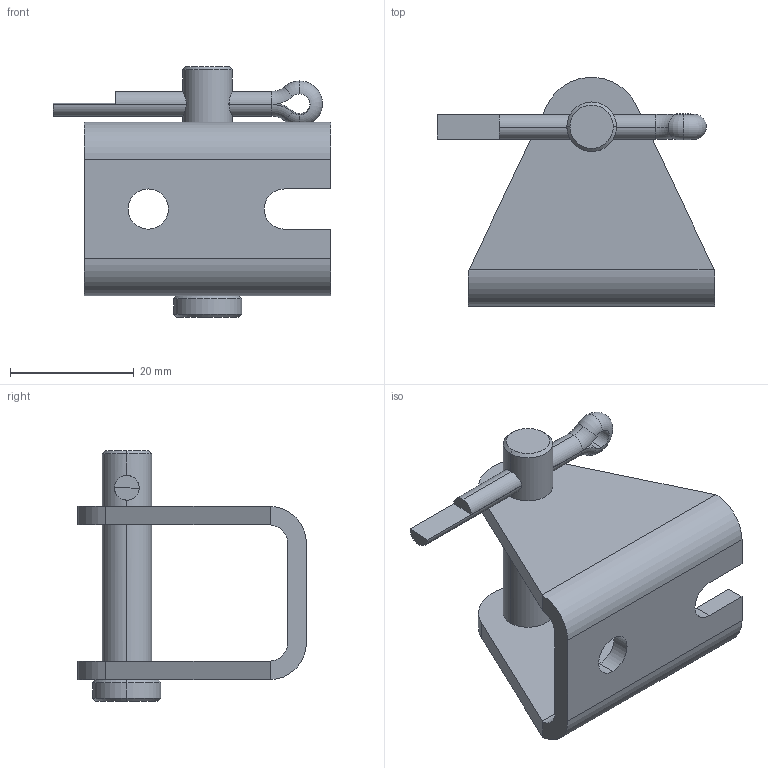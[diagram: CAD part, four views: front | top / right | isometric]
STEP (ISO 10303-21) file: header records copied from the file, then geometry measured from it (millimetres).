
FILE_DESCRIPTION((''),' ');
FILE_NAME('DSZY1_mounting bracket_2016_02_02.stp',' ',('R. Lindner'),('MSW GmbH'),' ','ACIS 14.0',' ');
FILE_SCHEMA(('automotive_design'));
Length unit declared in the file: inch
Products named in the file (3): ¦w¸Ë¤ä¬[|NAUO1#; 安裝支架|NAUO2#LD3-R形插銷;掃出1; ¦w¸Ë¤ä¬[|NAUO3#¦w¸Ë¤ä¬[¶b¤ß;¾É¨¤1
Bounding box: 44.85 x 36.97 x 40.5 mm (x, y, z)
Volume: 10144.4 mm3; surface area: 8051.1 mm2
Topology: 3 solids, 3 shells, 63 faces, 154 edges, 94 vertices
Faces by surface type: cylinder 28, plane 22, torus 7, cone 6
Entity records: 2542 total; most frequent: CARTESIAN_POINT 456, DIRECTION 336, ORIENTED_EDGE 308, EDGE_CURVE 154, AXIS2_PLACEMENT_3D 132, VERTEX_POINT 94, LINE 72, VECTOR 72
